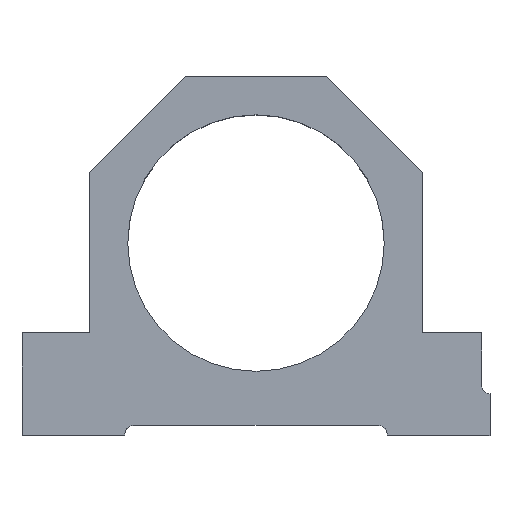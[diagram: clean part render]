
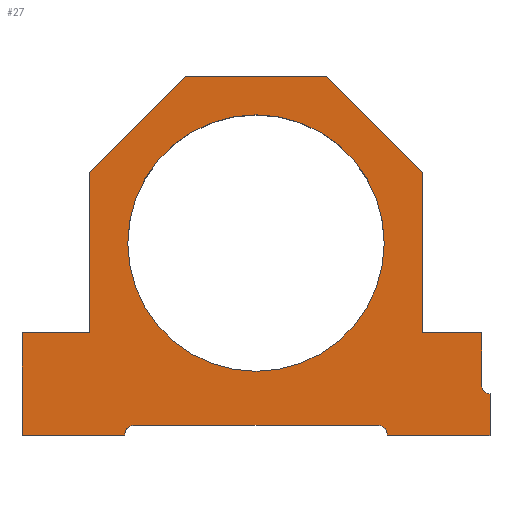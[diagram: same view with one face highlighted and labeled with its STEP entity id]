
A CAD part, top view. The second image highlights one B-rep face of the part: STEP entity #27.
In plain terms, the highlighted planar face has unit normal (0, 0, 1).
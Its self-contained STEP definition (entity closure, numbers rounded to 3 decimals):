
#3 = VERTEX_POINT ( 'NONE', #125 ) ;
#4 = EDGE_LOOP ( 'NONE', ( #807, #791 ) ) ;
#7 = EDGE_LOOP ( 'NONE', ( #777, #852, #20, #44, #847, #770, #64, #790, #184, #761, #824, #709, #806, #819, #58, #17 ) ) ;
#8 = EDGE_CURVE ( 'NONE', #167, #387, #140, .T. ) ;
#16 = EDGE_CURVE ( 'NONE', #42, #3, #171, .T. ) ;
#17 = ORIENTED_EDGE ( 'NONE', *, *, #601, .T. ) ;
#20 = ORIENTED_EDGE ( 'NONE', *, *, #203, .T. ) ;
#27 = ADVANCED_FACE ( 'NONE', ( #263, #264 ), #265, .T. ) ;
#33 = EDGE_CURVE ( 'NONE', #149, #510, #300, .T. ) ;
#42 = VERTEX_POINT ( 'NONE', #353 ) ;
#44 = ORIENTED_EDGE ( 'NONE', *, *, #33, .T. ) ;
#53 = VERTEX_POINT ( 'NONE', #436 ) ;
#55 = EDGE_CURVE ( 'NONE', #673, #42, #454, .T. ) ;
#58 = ORIENTED_EDGE ( 'NONE', *, *, #778, .T. ) ;
#64 = ORIENTED_EDGE ( 'NONE', *, *, #841, .T. ) ;
#88 = CARTESIAN_POINT ( 'NONE',  ( -73., 0., 22. ) ) ;
#111 = CARTESIAN_POINT ( 'NONE',  ( -40., 60., 22. ) ) ;
#118 = CARTESIAN_POINT ( 'NONE',  ( -41., 0., 22. ) ) ;
#125 = CARTESIAN_POINT ( 'NONE',  ( 52., 32., 22. ) ) ;
#140 = CIRCLE ( 'NONE', #141, 40. ) ;
#141 = AXIS2_PLACEMENT_3D ( 'NONE', #142, #143, #144 ) ;
#142 = CARTESIAN_POINT ( 'NONE',  ( 0., 60., 22. ) ) ;
#143 = DIRECTION ( 'NONE',  ( 0., 0., 1. ) ) ;
#144 = DIRECTION ( 'NONE',  ( 1., 0., 0. ) ) ;
#149 = VERTEX_POINT ( 'NONE', #591 ) ;
#155 = CARTESIAN_POINT ( 'NONE',  ( 73., 0., 22. ) ) ;
#157 = CARTESIAN_POINT ( 'NONE',  ( 37.8, 3.2, 22. ) ) ;
#167 = VERTEX_POINT ( 'NONE', #592 ) ;
#170 = CARTESIAN_POINT ( 'NONE',  ( -73., 32., 22. ) ) ;
#171 = LINE ( 'NONE', #172, #173 ) ;
#172 = CARTESIAN_POINT ( 'NONE',  ( 70.4, 32., 22. ) ) ;
#173 = VECTOR ( 'NONE', #174, 1000. ) ;
#174 = DIRECTION ( 'NONE',  ( -1., 0., 0. ) ) ;
#184 = ORIENTED_EDGE ( 'NONE', *, *, #55, .T. ) ;
#187 = CARTESIAN_POINT ( 'NONE',  ( 73., 13., 22. ) ) ;
#193 = LINE ( 'NONE', #194, #195 ) ;
#194 = CARTESIAN_POINT ( 'NONE',  ( -70.4, 32., 22. ) ) ;
#195 = VECTOR ( 'NONE', #196, 1000. ) ;
#196 = DIRECTION ( 'NONE',  ( -1., 0., 0. ) ) ;
#197 = CIRCLE ( 'NONE', #198, 40. ) ;
#198 = AXIS2_PLACEMENT_3D ( 'NONE', #199, #200, #201 ) ;
#199 = CARTESIAN_POINT ( 'NONE',  ( 0., 60., 22. ) ) ;
#200 = DIRECTION ( 'NONE',  ( 0., 0., 1. ) ) ;
#201 = DIRECTION ( 'NONE',  ( 1., 0., 0. ) ) ;
#203 = EDGE_CURVE ( 'NONE', #825, #149, #593, .T. ) ;
#213 = CARTESIAN_POINT ( 'NONE',  ( 52., 82., 22. ) ) ;
#218 = LINE ( 'NONE', #219, #220 ) ;
#219 = CARTESIAN_POINT ( 'NONE',  ( -41., 0., 22. ) ) ;
#220 = VECTOR ( 'NONE', #221, 1000. ) ;
#221 = DIRECTION ( 'NONE',  ( 1., 0., 0. ) ) ;
#223 = LINE ( 'NONE', #226, #227 ) ;
#226 = CARTESIAN_POINT ( 'NONE',  ( 52., 82., 22. ) ) ;
#227 = VECTOR ( 'NONE', #228, 1000. ) ;
#228 = DIRECTION ( 'NONE',  ( -0.707, 0.707, 0. ) ) ;
#231 = CARTESIAN_POINT ( 'NONE',  ( 41., 0., 22. ) ) ;
#255 = CARTESIAN_POINT ( 'NONE',  ( 70.4, 15.6, 22. ) ) ;
#263 = FACE_OUTER_BOUND ( 'NONE', #7, .T. ) ;
#264 = FACE_BOUND ( 'NONE', #4, .T. ) ;
#265 = PLANE ( 'NONE',  #266 ) ;
#266 = AXIS2_PLACEMENT_3D ( 'NONE', #267, #268, #269 ) ;
#267 = CARTESIAN_POINT ( 'NONE',  ( -73., 15.6, 22. ) ) ;
#268 = DIRECTION ( 'NONE',  ( 0., 0., 1. ) ) ;
#269 = DIRECTION ( 'NONE',  ( 1., 0., 0. ) ) ;
#271 = LINE ( 'NONE', #272, #273 ) ;
#272 = CARTESIAN_POINT ( 'NONE',  ( 41., 0., 22. ) ) ;
#273 = VECTOR ( 'NONE', #274, 1000. ) ;
#274 = DIRECTION ( 'NONE',  ( 1., 0., 0. ) ) ;
#300 = LINE ( 'NONE', #301, #302 ) ;
#301 = CARTESIAN_POINT ( 'NONE',  ( -37.8, 3.2, 22. ) ) ;
#302 = VECTOR ( 'NONE', #303, 1000. ) ;
#303 = DIRECTION ( 'NONE',  ( 1., 0., 0. ) ) ;
#304 = LINE ( 'NONE', #305, #306 ) ;
#305 = CARTESIAN_POINT ( 'NONE',  ( -73., 0., 22. ) ) ;
#306 = VECTOR ( 'NONE', #307, 1000. ) ;
#307 = DIRECTION ( 'NONE',  ( 0., -1., 0. ) ) ;
#311 = VERTEX_POINT ( 'NONE', #88 ) ;
#316 = LINE ( 'NONE', #317, #318 ) ;
#317 = CARTESIAN_POINT ( 'NONE',  ( -22., 112., 22. ) ) ;
#318 = VECTOR ( 'NONE', #319, 1000. ) ;
#319 = DIRECTION ( 'NONE',  ( -1., 0., 0. ) ) ;
#320 = CARTESIAN_POINT ( 'NONE',  ( -52., 32., 22. ) ) ;
#344 = LINE ( 'NONE', #345, #346 ) ;
#345 = CARTESIAN_POINT ( 'NONE',  ( 73., 0., 22. ) ) ;
#346 = VECTOR ( 'NONE', #347, 1000. ) ;
#347 = DIRECTION ( 'NONE',  ( 0., 1., 0. ) ) ;
#353 = CARTESIAN_POINT ( 'NONE',  ( 70.4, 32., 22. ) ) ;
#354 = CIRCLE ( 'NONE', #355, 3.2 ) ;
#355 = AXIS2_PLACEMENT_3D ( 'NONE', #356, #357, #358 ) ;
#356 = CARTESIAN_POINT ( 'NONE',  ( 37.8, 0., 22. ) ) ;
#357 = DIRECTION ( 'NONE',  ( 0., 0., -1. ) ) ;
#358 = DIRECTION ( 'NONE',  ( -1., 0., 0. ) ) ;
#377 = CIRCLE ( 'NONE', #378, 2.6 ) ;
#378 = AXIS2_PLACEMENT_3D ( 'NONE', #379, #380, #381 ) ;
#379 = CARTESIAN_POINT ( 'NONE',  ( 73., 15.6, 22. ) ) ;
#380 = DIRECTION ( 'NONE',  ( 0., 0., -1. ) ) ;
#381 = DIRECTION ( 'NONE',  ( -1., 0., 0. ) ) ;
#387 = VERTEX_POINT ( 'NONE', #111 ) ;
#428 = LINE ( 'NONE', #429, #430 ) ;
#429 = CARTESIAN_POINT ( 'NONE',  ( -52., 82., 22. ) ) ;
#430 = VECTOR ( 'NONE', #431, 1000. ) ;
#431 = DIRECTION ( 'NONE',  ( -0.707, -0.707, 0. ) ) ;
#432 = LINE ( 'NONE', #433, #434 ) ;
#433 = CARTESIAN_POINT ( 'NONE',  ( 52., 32., 22. ) ) ;
#434 = VECTOR ( 'NONE', #435, 1000. ) ;
#435 = DIRECTION ( 'NONE',  ( 0., 1., 0. ) ) ;
#436 = CARTESIAN_POINT ( 'NONE',  ( -52., 82., 22. ) ) ;
#437 = CARTESIAN_POINT ( 'NONE',  ( 22., 112., 22. ) ) ;
#454 = LINE ( 'NONE', #455, #456 ) ;
#455 = CARTESIAN_POINT ( 'NONE',  ( 70.4, 15.6, 22. ) ) ;
#456 = VECTOR ( 'NONE', #458, 1000. ) ;
#458 = DIRECTION ( 'NONE',  ( 0., 1., 0. ) ) ;
#484 = CARTESIAN_POINT ( 'NONE',  ( -22., 112., 22. ) ) ;
#486 = LINE ( 'NONE', #487, #488 ) ;
#487 = CARTESIAN_POINT ( 'NONE',  ( -52., 32., 22. ) ) ;
#488 = VECTOR ( 'NONE', #489, 1000. ) ;
#489 = DIRECTION ( 'NONE',  ( 0., -1., 0. ) ) ;
#493 = VERTEX_POINT ( 'NONE', #155 ) ;
#510 = VERTEX_POINT ( 'NONE', #157 ) ;
#529 = VERTEX_POINT ( 'NONE', #170 ) ;
#591 = CARTESIAN_POINT ( 'NONE',  ( -37.8, 3.2, 22. ) ) ;
#592 = CARTESIAN_POINT ( 'NONE',  ( 40., 60., 22. ) ) ;
#593 = CIRCLE ( 'NONE', #594, 3.2 ) ;
#594 = AXIS2_PLACEMENT_3D ( 'NONE', #595, #596, #597 ) ;
#595 = CARTESIAN_POINT ( 'NONE',  ( -37.8, 0., 22. ) ) ;
#596 = DIRECTION ( 'NONE',  ( 0., 0., -1. ) ) ;
#597 = DIRECTION ( 'NONE',  ( 1., 0., 0. ) ) ;
#601 = EDGE_CURVE ( 'NONE', #728, #529, #193, .T. ) ;
#602 = EDGE_CURVE ( 'NONE', #387, #167, #197, .T. ) ;
#619 = VERTEX_POINT ( 'NONE', #213 ) ;
#653 = VERTEX_POINT ( 'NONE', #231 ) ;
#673 = VERTEX_POINT ( 'NONE', #255 ) ;
#708 = EDGE_CURVE ( 'NONE', #653, #493, #271, .T. ) ;
#709 = ORIENTED_EDGE ( 'NONE', *, *, #834, .T. ) ;
#726 = EDGE_CURVE ( 'NONE', #529, #311, #304, .T. ) ;
#727 = EDGE_CURVE ( 'NONE', #762, #774, #316, .T. ) ;
#728 = VERTEX_POINT ( 'NONE', #320 ) ;
#734 = EDGE_CURVE ( 'NONE', #510, #653, #354, .T. ) ;
#740 = EDGE_CURVE ( 'NONE', #832, #673, #377, .T. ) ;
#755 = EDGE_CURVE ( 'NONE', #774, #53, #428, .T. ) ;
#761 = ORIENTED_EDGE ( 'NONE', *, *, #16, .T. ) ;
#762 = VERTEX_POINT ( 'NONE', #437 ) ;
#770 = ORIENTED_EDGE ( 'NONE', *, *, #708, .T. ) ;
#774 = VERTEX_POINT ( 'NONE', #484 ) ;
#777 = ORIENTED_EDGE ( 'NONE', *, *, #726, .T. ) ;
#778 = EDGE_CURVE ( 'NONE', #53, #728, #486, .T. ) ;
#790 = ORIENTED_EDGE ( 'NONE', *, *, #740, .T. ) ;
#791 = ORIENTED_EDGE ( 'NONE', *, *, #8, .F. ) ;
#806 = ORIENTED_EDGE ( 'NONE', *, *, #727, .T. ) ;
#807 = ORIENTED_EDGE ( 'NONE', *, *, #602, .F. ) ;
#819 = ORIENTED_EDGE ( 'NONE', *, *, #755, .T. ) ;
#824 = ORIENTED_EDGE ( 'NONE', *, *, #854, .T. ) ;
#825 = VERTEX_POINT ( 'NONE', #118 ) ;
#832 = VERTEX_POINT ( 'NONE', #187 ) ;
#833 = EDGE_CURVE ( 'NONE', #311, #825, #218, .T. ) ;
#834 = EDGE_CURVE ( 'NONE', #619, #762, #223, .T. ) ;
#841 = EDGE_CURVE ( 'NONE', #493, #832, #344, .T. ) ;
#847 = ORIENTED_EDGE ( 'NONE', *, *, #734, .T. ) ;
#852 = ORIENTED_EDGE ( 'NONE', *, *, #833, .T. ) ;
#854 = EDGE_CURVE ( 'NONE', #3, #619, #432, .T. ) ;
